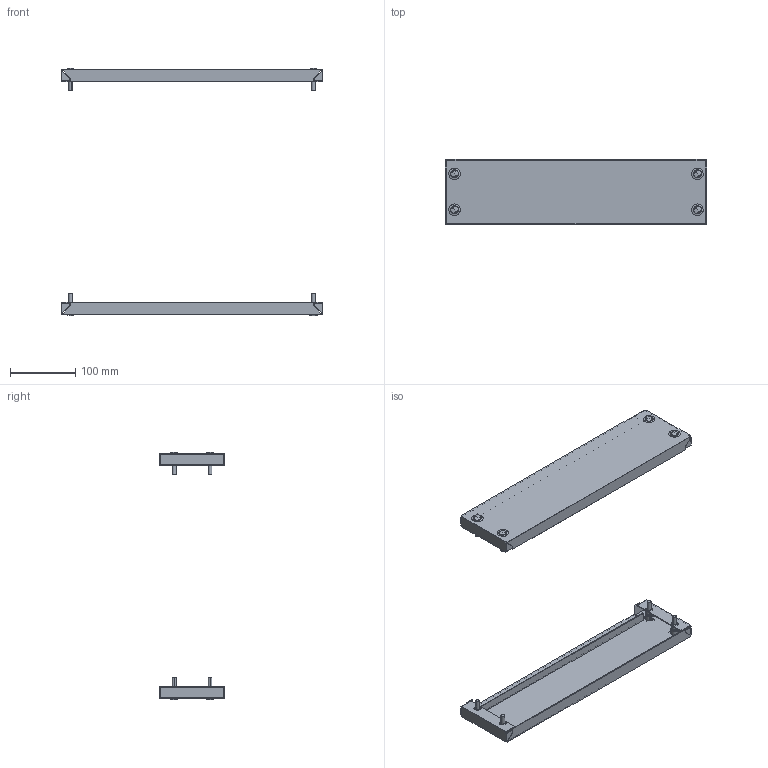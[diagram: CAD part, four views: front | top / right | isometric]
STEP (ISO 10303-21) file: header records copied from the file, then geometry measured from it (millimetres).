
FILE_DESCRIPTION (( 'STEP AP203' ), '1' );
FILE_NAME ('R5FZ4-400.STEP', '2025-06-18T08:28:23', ( '' ), ( '' ), 'SwSTEP 2.0', 'SolidWorks 2022', '' );
FILE_SCHEMA (( 'CONFIG_CONTROL_DESIGN' ));
Length unit declared in the file: millimetre
Products named in the file (5): RB.1055.00.00.0 simple_-00 (400); Plug_11.5-13Д18ЧК_-00; 6 DIN 6798 A Zinc; M6x16 DIN 912 HX cl.4,8 Zinc_stright; R5FZ4-400
Assembly tree (26 placements, depth 2):
  R5FZ4-400
    RB.1055.00.00.0 simple_-00 (400)  x2
    M6x16 DIN 912 HX cl.4,8 Zinc_stright  x8
    6 DIN 6798 A Zinc  x8
    Plug_11.5-13Д18ЧК_-00  x8
Bounding box: 400 x 100.05 x 378.5 mm (x, y, z)
Volume: 206091.3 mm3; surface area: 280424.9 mm2
Topology: 26 solids, 26 shells, 1196 faces, 3456 edges, 2112 vertices
Faces by surface type: plane 700, bspline 208, cylinder 128, cone 96, torus 48, sphere 16
Entity records: 9921 total; most frequent: CARTESIAN_POINT 2626, ORIENTED_EDGE 1352, DIRECTION 1188, EDGE_CURVE 676, VECTOR 448, LINE 448, VERTEX_POINT 444, AXIS2_PLACEMENT_3D 370
